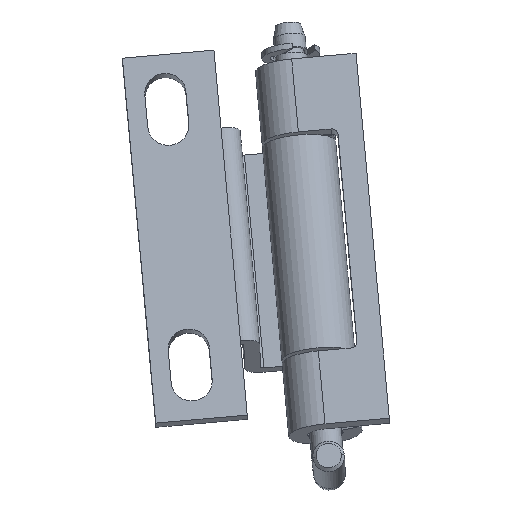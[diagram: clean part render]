
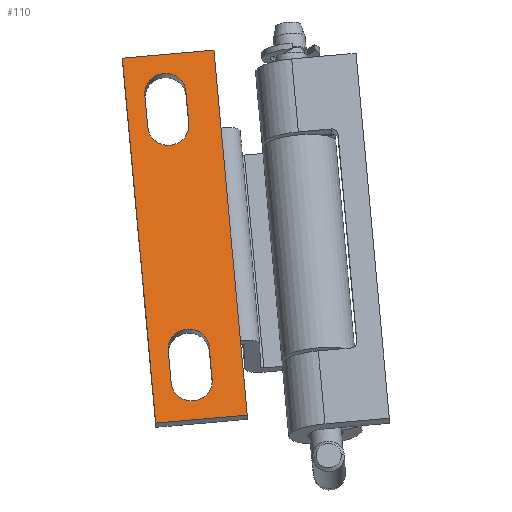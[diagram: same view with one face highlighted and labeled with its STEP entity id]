
A CAD part, front view. The second image highlights one B-rep face of the part: STEP entity #110.
In plain terms, the highlighted planar face has unit normal (-0.012, -0.964, 0.266) as drawn and (0, -1, 0) by its records, which use the part's own axes.
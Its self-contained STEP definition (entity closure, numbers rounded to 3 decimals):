
#11 = DIRECTION ( 'NONE',  ( 0., 0., 1. ) ) ;
#49 = DIRECTION ( 'NONE',  ( 0., 0., 1. ) ) ;
#85 = EDGE_CURVE ( 'NONE', #1032, #3210, #1171, .T. ) ;
#110 = ADVANCED_FACE ( 'NONE', ( #983, #2506, #602 ), #1169, .T. ) ;
#118 = AXIS2_PLACEMENT_3D ( 'NONE', #3543, #535, #266 ) ;
#128 = CARTESIAN_POINT ( 'NONE',  ( 23.7, -14.2, 11.65 ) ) ;
#148 = CARTESIAN_POINT ( 'NONE',  ( 20.45, -14.2, 14.9 ) ) ;
#178 = DIRECTION ( 'NONE',  ( -1., 0., 0. ) ) ;
#200 = VERTEX_POINT ( 'NONE', #128 ) ;
#233 = VECTOR ( 'NONE', #1711, 1000. ) ;
#238 = EDGE_CURVE ( 'NONE', #2110, #1032, #620, .T. ) ;
#261 = CIRCLE ( 'NONE', #551, 3.25 ) ;
#262 = CARTESIAN_POINT ( 'NONE',  ( 12.2, -14.2, 0. ) ) ;
#266 = DIRECTION ( 'NONE',  ( 0., 0., 1. ) ) ;
#267 = ORIENTED_EDGE ( 'NONE', *, *, #1529, .T. ) ;
#276 = VECTOR ( 'NONE', #2311, 1000. ) ;
#277 = ORIENTED_EDGE ( 'NONE', *, *, #2942, .T. ) ;
#286 = AXIS2_PLACEMENT_3D ( 'NONE', #2971, #850, #586 ) ;
#315 = CARTESIAN_POINT ( 'NONE',  ( 23.7, -14.2, 48.35 ) ) ;
#318 = CARTESIAN_POINT ( 'NONE',  ( 17.2, -14.2, 48.35 ) ) ;
#326 = DIRECTION ( 'NONE',  ( 0., 0., 1. ) ) ;
#357 = VERTEX_POINT ( 'NONE', #507 ) ;
#386 = CARTESIAN_POINT ( 'NONE',  ( 26.7, -14.2, 60. ) ) ;
#436 = AXIS2_PLACEMENT_3D ( 'NONE', #3099, #2062, #2539 ) ;
#507 = CARTESIAN_POINT ( 'NONE',  ( 23.7, -14.2, 6.35 ) ) ;
#523 = VERTEX_POINT ( 'NONE', #2244 ) ;
#526 = EDGE_CURVE ( 'NONE', #357, #807, #2892, .T. ) ;
#528 = CARTESIAN_POINT ( 'NONE',  ( 17.2, -14.2, 11.65 ) ) ;
#535 = DIRECTION ( 'NONE',  ( 0., 1., 0. ) ) ;
#551 = AXIS2_PLACEMENT_3D ( 'NONE', #2993, #1354, #603 ) ;
#586 = DIRECTION ( 'NONE',  ( 0., 0., 1. ) ) ;
#587 = CARTESIAN_POINT ( 'NONE',  ( 20.45, -14.2, 48.35 ) ) ;
#602 = FACE_OUTER_BOUND ( 'NONE', #3511, .T. ) ;
#603 = DIRECTION ( 'NONE',  ( 0., 0., 1. ) ) ;
#620 = LINE ( 'NONE', #1736, #2773 ) ;
#634 = ORIENTED_EDGE ( 'NONE', *, *, #2202, .T. ) ;
#722 = EDGE_CURVE ( 'NONE', #1753, #2133, #2884, .T. ) ;
#727 = EDGE_CURVE ( 'NONE', #1114, #1776, #2849, .T. ) ;
#732 = CIRCLE ( 'NONE', #118, 3.25 ) ;
#761 = EDGE_CURVE ( 'NONE', #2133, #2634, #1769, .T. ) ;
#807 = VERTEX_POINT ( 'NONE', #1849 ) ;
#850 = DIRECTION ( 'NONE',  ( 0., 1., 0. ) ) ;
#932 = CARTESIAN_POINT ( 'NONE',  ( 12.2, -14.2, 60. ) ) ;
#945 = DIRECTION ( 'NONE',  ( 0., 0., -1. ) ) ;
#983 = FACE_BOUND ( 'NONE', #1646, .T. ) ;
#993 = CARTESIAN_POINT ( 'NONE',  ( 23.7, -14.2, 11.65 ) ) ;
#1032 = VERTEX_POINT ( 'NONE', #315 ) ;
#1114 = VERTEX_POINT ( 'NONE', #3051 ) ;
#1148 = ORIENTED_EDGE ( 'NONE', *, *, #727, .T. ) ;
#1169 = PLANE ( 'NONE',  #436 ) ;
#1171 = CIRCLE ( 'NONE', #3178, 3.25 ) ;
#1222 = CARTESIAN_POINT ( 'NONE',  ( 26.7, -14.2, 60. ) ) ;
#1231 = VERTEX_POINT ( 'NONE', #1247 ) ;
#1234 = LINE ( 'NONE', #528, #1654 ) ;
#1247 = CARTESIAN_POINT ( 'NONE',  ( 20.45, -14.2, 56.9 ) ) ;
#1278 = LINE ( 'NONE', #993, #2835 ) ;
#1283 = VERTEX_POINT ( 'NONE', #148 ) ;
#1311 = VECTOR ( 'NONE', #2910, 1000. ) ;
#1348 = AXIS2_PLACEMENT_3D ( 'NONE', #3040, #2187, #49 ) ;
#1354 = DIRECTION ( 'NONE',  ( 0., 1., 0. ) ) ;
#1376 = LINE ( 'NONE', #2725, #1728 ) ;
#1432 = EDGE_CURVE ( 'NONE', #200, #357, #1278, .T. ) ;
#1503 = LINE ( 'NONE', #2578, #2669 ) ;
#1505 = VERTEX_POINT ( 'NONE', #3546 ) ;
#1510 = ORIENTED_EDGE ( 'NONE', *, *, #238, .T. ) ;
#1529 = EDGE_CURVE ( 'NONE', #1283, #200, #1912, .T. ) ;
#1553 = EDGE_CURVE ( 'NONE', #2572, #1114, #1376, .T. ) ;
#1604 = EDGE_CURVE ( 'NONE', #1231, #2110, #261, .T. ) ;
#1646 = EDGE_LOOP ( 'NONE', ( #1861, #1664, #1510, #2149, #3251 ) ) ;
#1654 = VECTOR ( 'NONE', #3000, 1000. ) ;
#1664 = ORIENTED_EDGE ( 'NONE', *, *, #1604, .T. ) ;
#1671 = DIRECTION ( 'NONE',  ( 0., 1., 0. ) ) ;
#1711 = DIRECTION ( 'NONE',  ( 0., 0., 1. ) ) ;
#1728 = VECTOR ( 'NONE', #3063, 1000. ) ;
#1736 = CARTESIAN_POINT ( 'NONE',  ( 23.7, -14.2, 53.65 ) ) ;
#1753 = VERTEX_POINT ( 'NONE', #1222 ) ;
#1769 = LINE ( 'NONE', #1783, #1915 ) ;
#1776 = VERTEX_POINT ( 'NONE', #3483 ) ;
#1783 = CARTESIAN_POINT ( 'NONE',  ( 11.7, -14.2, 0. ) ) ;
#1803 = CARTESIAN_POINT ( 'NONE',  ( 12.2, -14.2, 60. ) ) ;
#1849 = CARTESIAN_POINT ( 'NONE',  ( 17.2, -14.2, 6.35 ) ) ;
#1854 = AXIS2_PLACEMENT_3D ( 'NONE', #2219, #3307, #11 ) ;
#1861 = ORIENTED_EDGE ( 'NONE', *, *, #2161, .T. ) ;
#1912 = CIRCLE ( 'NONE', #1854, 3.25 ) ;
#1915 = VECTOR ( 'NONE', #2331, 1000. ) ;
#1959 = ORIENTED_EDGE ( 'NONE', *, *, #761, .F. ) ;
#2062 = DIRECTION ( 'NONE',  ( 0., -1., 0. ) ) ;
#2100 = LINE ( 'NONE', #2383, #1311 ) ;
#2110 = VERTEX_POINT ( 'NONE', #2702 ) ;
#2133 = VERTEX_POINT ( 'NONE', #3047 ) ;
#2149 = ORIENTED_EDGE ( 'NONE', *, *, #85, .T. ) ;
#2161 = EDGE_CURVE ( 'NONE', #1505, #1231, #3328, .T. ) ;
#2187 = DIRECTION ( 'NONE',  ( 0., 1., 0. ) ) ;
#2202 = EDGE_CURVE ( 'NONE', #523, #1283, #732, .T. ) ;
#2219 = CARTESIAN_POINT ( 'NONE',  ( 20.45, -14.2, 11.65 ) ) ;
#2221 = ORIENTED_EDGE ( 'NONE', *, *, #1553, .T. ) ;
#2244 = CARTESIAN_POINT ( 'NONE',  ( 17.2, -14.2, 11.65 ) ) ;
#2311 = DIRECTION ( 'NONE',  ( 0., 0., -1. ) ) ;
#2331 = DIRECTION ( 'NONE',  ( -1., 0., 0. ) ) ;
#2340 = ORIENTED_EDGE ( 'NONE', *, *, #2534, .T. ) ;
#2383 = CARTESIAN_POINT ( 'NONE',  ( 12.2, -14.2, 0. ) ) ;
#2395 = DIRECTION ( 'NONE',  ( 0., 0., -1. ) ) ;
#2506 = FACE_BOUND ( 'NONE', #2784, .T. ) ;
#2534 = EDGE_CURVE ( 'NONE', #1753, #2572, #1503, .T. ) ;
#2539 = DIRECTION ( 'NONE',  ( 0., 0., -1. ) ) ;
#2572 = VERTEX_POINT ( 'NONE', #1803 ) ;
#2578 = CARTESIAN_POINT ( 'NONE',  ( 11.7, -14.2, 60. ) ) ;
#2634 = VERTEX_POINT ( 'NONE', #262 ) ;
#2669 = VECTOR ( 'NONE', #178, 1000. ) ;
#2689 = ORIENTED_EDGE ( 'NONE', *, *, #526, .T. ) ;
#2702 = CARTESIAN_POINT ( 'NONE',  ( 23.7, -14.2, 53.65 ) ) ;
#2725 = CARTESIAN_POINT ( 'NONE',  ( 12.2, -14.2, 60. ) ) ;
#2773 = VECTOR ( 'NONE', #2906, 1000. ) ;
#2784 = EDGE_LOOP ( 'NONE', ( #634, #267, #2877, #2689, #277 ) ) ;
#2835 = VECTOR ( 'NONE', #2395, 1000. ) ;
#2849 = LINE ( 'NONE', #932, #3492 ) ;
#2877 = ORIENTED_EDGE ( 'NONE', *, *, #1432, .T. ) ;
#2884 = LINE ( 'NONE', #386, #276 ) ;
#2891 = ORIENTED_EDGE ( 'NONE', *, *, #722, .F. ) ;
#2892 = CIRCLE ( 'NONE', #1348, 3.25 ) ;
#2906 = DIRECTION ( 'NONE',  ( 0., 0., -1. ) ) ;
#2910 = DIRECTION ( 'NONE',  ( 0., 0., -1. ) ) ;
#2942 = EDGE_CURVE ( 'NONE', #807, #523, #1234, .T. ) ;
#2971 = CARTESIAN_POINT ( 'NONE',  ( 20.45, -14.2, 53.65 ) ) ;
#2993 = CARTESIAN_POINT ( 'NONE',  ( 20.45, -14.2, 53.65 ) ) ;
#3000 = DIRECTION ( 'NONE',  ( 0., 0., 1. ) ) ;
#3037 = ORIENTED_EDGE ( 'NONE', *, *, #3072, .T. ) ;
#3040 = CARTESIAN_POINT ( 'NONE',  ( 20.45, -14.2, 6.35 ) ) ;
#3047 = CARTESIAN_POINT ( 'NONE',  ( 26.7, -14.2, 0. ) ) ;
#3051 = CARTESIAN_POINT ( 'NONE',  ( 12.2, -14.2, 47.729 ) ) ;
#3063 = DIRECTION ( 'NONE',  ( 0., 0., -1. ) ) ;
#3072 = EDGE_CURVE ( 'NONE', #1776, #2634, #2100, .T. ) ;
#3089 = CARTESIAN_POINT ( 'NONE',  ( 17.2, -14.2, 53.65 ) ) ;
#3099 = CARTESIAN_POINT ( 'NONE',  ( 11.7, -14.2, 60. ) ) ;
#3178 = AXIS2_PLACEMENT_3D ( 'NONE', #587, #1671, #326 ) ;
#3209 = EDGE_CURVE ( 'NONE', #3210, #1505, #3341, .T. ) ;
#3210 = VERTEX_POINT ( 'NONE', #318 ) ;
#3251 = ORIENTED_EDGE ( 'NONE', *, *, #3209, .T. ) ;
#3307 = DIRECTION ( 'NONE',  ( 0., 1., 0. ) ) ;
#3328 = CIRCLE ( 'NONE', #286, 3.25 ) ;
#3341 = LINE ( 'NONE', #3089, #233 ) ;
#3483 = CARTESIAN_POINT ( 'NONE',  ( 12.2, -14.2, 12.729 ) ) ;
#3492 = VECTOR ( 'NONE', #945, 1000. ) ;
#3511 = EDGE_LOOP ( 'NONE', ( #1959, #2891, #2340, #2221, #1148, #3037 ) ) ;
#3543 = CARTESIAN_POINT ( 'NONE',  ( 20.45, -14.2, 11.65 ) ) ;
#3546 = CARTESIAN_POINT ( 'NONE',  ( 17.2, -14.2, 53.65 ) ) ;
